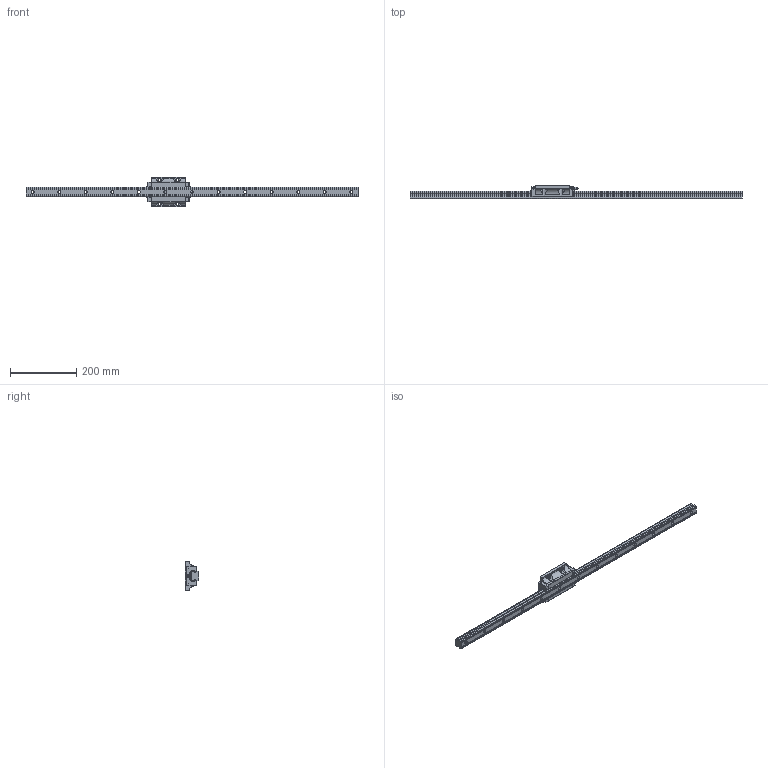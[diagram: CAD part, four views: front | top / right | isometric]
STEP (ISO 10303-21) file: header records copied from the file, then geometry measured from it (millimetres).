
FILE_DESCRIPTION (( 'STEP AP214' ), '1' );
FILE_NAME ('EGH30FL.STEP', '2021-07-05T06:54:24', ( '' ), ( '' ), 'SwSTEP 2.0', 'SolidWorks 2019', '' );
FILE_SCHEMA (( 'AUTOMOTIVE_DESIGN' ));
Length unit declared in the file: millimetre
Products named in the file (4): M6グリースニップル; EG30レール; EGH30FLキャリッジ; EGH30FL
Assembly tree (3 placements, depth 2):
  EGH30FL
    EG30レール
    EGH30FLキャリッジ
    M6グリースニップル
Bounding box: 1000 x 42 x 90 mm (x, y, z)
Volume: 793047.6 mm3; surface area: 165443.9 mm2
Topology: 7 solids, 7 shells, 561 faces, 1555 edges, 1027 vertices
Faces by surface type: plane 369, cylinder 168, cone 20, torus 3, sphere 1
Full cylindrical faces by diameter (mm): 6 x1, 7.75 x1, 8 x1, 9 x13, 14 x13
Entity records: 23642 total; most frequent: CARTESIAN_POINT 3498, ORIENTED_EDGE 3032, DIRECTION 2972, EDGE_CURVE 1516, LINE 1128, VECTOR 1128, VERTEX_POINT 1023, AXIS2_PLACEMENT_3D 922
